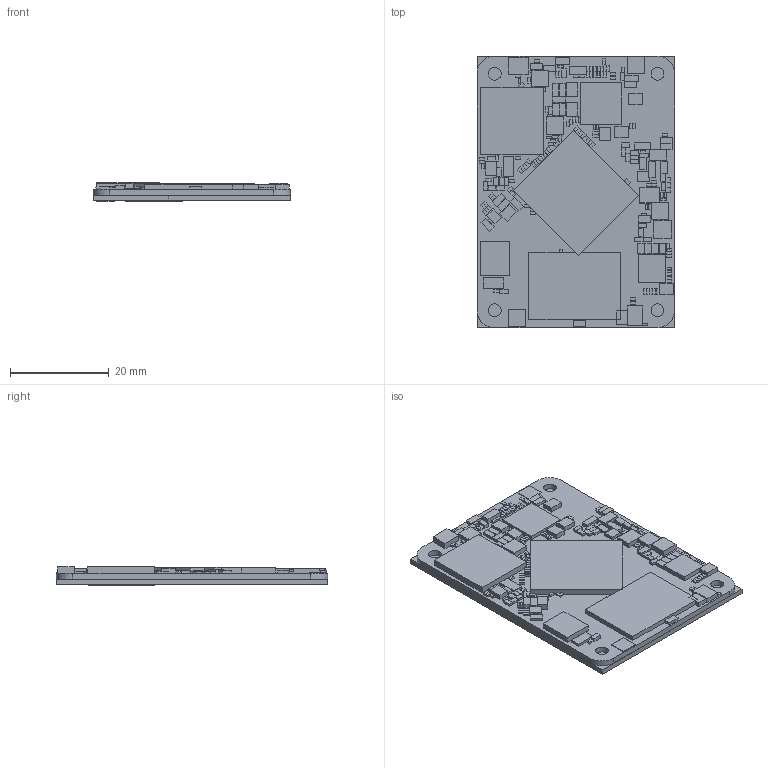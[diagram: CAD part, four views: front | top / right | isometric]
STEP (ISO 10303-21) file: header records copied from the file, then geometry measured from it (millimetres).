
FILE_DESCRIPTION(('FreeCAD Model'),'2;1');
FILE_NAME('Open CASCADE Shape Model','2022-07-21T18:15:14',('Author'),( ''),'Open CASCADE STEP processor 7.4','FreeCAD','Unknown');
FILE_SCHEMA(('AUTOMOTIVE_DESIGN { 1 0 10303 214 1 1 1 1 }'));
Length unit declared in the file: millimetre
Products named in the file (41): cm3_v1_1_20210705; Board_outline; Board_Geoms; EMP_Models; ANT2; C1; C10; C105; D1; ED8144; ED8147; FB1; FB5; FB9; J1; J90033; L1; L10; L13; L2; LED1; M1; Q4; Q5; R1; R24; R9216; TP1; U1; U13; U2; U3; U4300; U4301; U4302; U5; U7; U8; U9; Y1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
Assembly tree (1010 placements, depth 3):
  cm3_v1_1_20210705
    Board_outline
    Board_Geoms
      Board_outline
    EMP_Models
      ANT2
      C1  x27
      C10  x204
      C105  x45
      D1  x2
      ED8144  x5
      ED8147
      FB1  x6
      FB5  x4
      FB9
      J1
      J90033  x2
      L1
      L10  x7
      L13
      L2  x125
      LED1
      M1  x4
      Q4
      Q5  x2
      R1  x25
      R24  x5
      R9216  x2
      TP1  x13
      U1
      U13
      U2
      U3  x3
      U4300
      U4301
      U4302
      U5
      U7
      U8
      U9
      Y1  x3
      Y4
    ANT2
    C1  x27
    C10  x204
    C105  x45
    D1  x2
    ED8144  x5
    ED8147
    FB1  x6
    FB5  x4
    FB9
    J1
    J90033  x2
    L1
    L10  x7
    L13
    L2  x125
    LED1
    M1  x4
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Bounding box: 40.13 x 55.08 x 3.7 mm (x, y, z)
Surface area: 29152.6 mm2
Topology: 1008 solids, 1008 shells, 6064 faces, 12144 edges, 8096 vertices
Faces by surface type: plane 6048, cylinder 16
Full cylindrical faces by diameter (mm): 2.6 x8
Entity records: 26243 total; most frequent: DIRECTION 3950, CARTESIAN_POINT 3007, LINE 1408, VECTOR 1408, AXIS2_PLACEMENT_3D 1263, PRODUCT_DEFINITION_SHAPE 1051, CONTEXT_DEPENDENT_SHAPE_REPRESENTATION 1010, ITEM_DEFINED_TRANSFORMATION 1010
